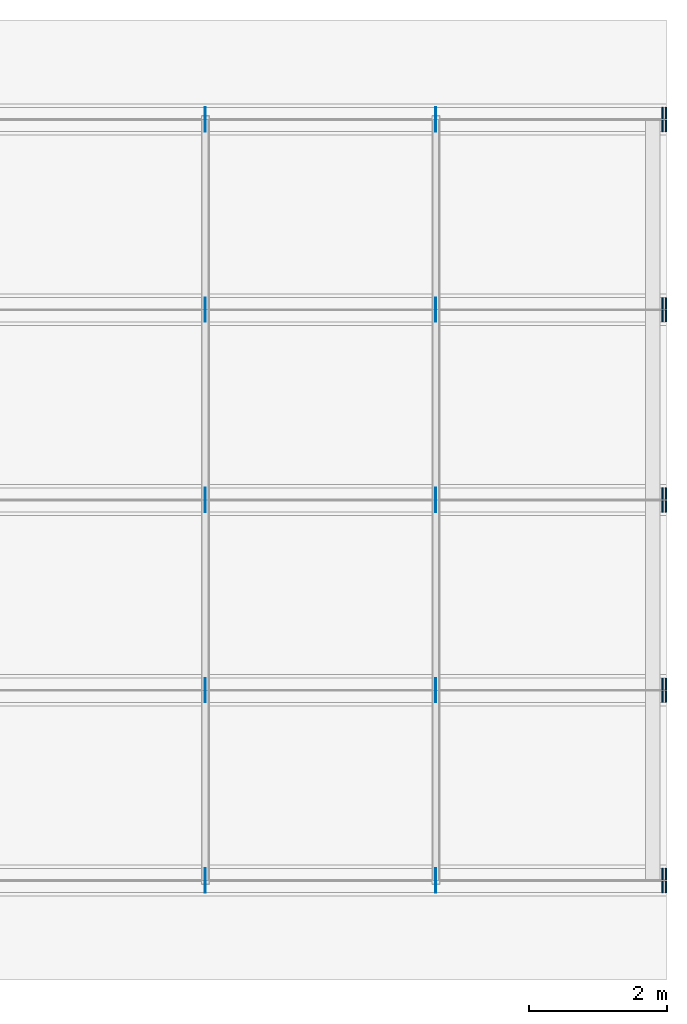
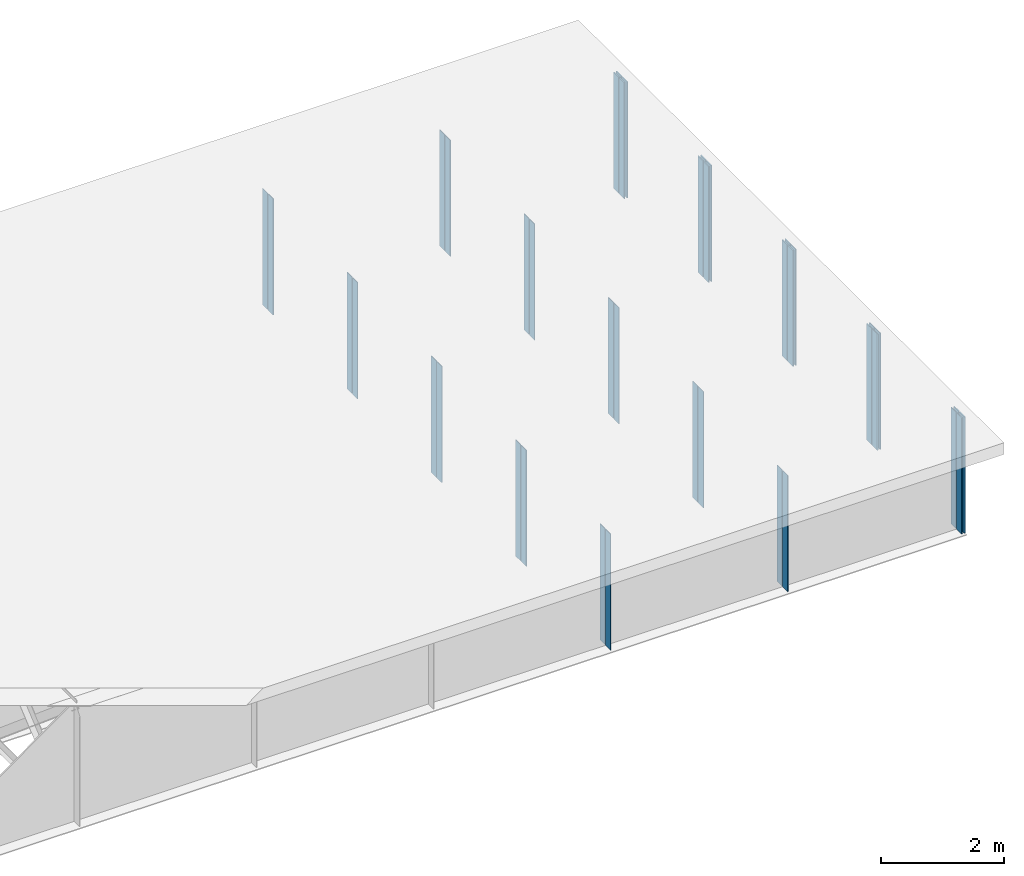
# One storey, part 19 of 19: 40 plates.
"""IFC4 building model written with IfcOpenShell, lengths in metres."""

import ifcopenshell
import ifcopenshell.guid

model = None  # the IFC model being written
_history = None  # IfcOwnerHistory: only IFC2X3 demands one
_inside = {}  # id of a spatial element -> (the spatial element, [elements in it])
_under = {}  # id of a project, library or spatial element -> (it, [spatial elements below it])
_declared = {}  # id of a project -> (the project, [libraries it declares])
_typed = {}  # id of a type object -> (the type object, [elements of that type])
_made_of = {}  # id of a material, layer set ... -> (it, [elements and type objects made of it])


def new_model(schema):
    """Start an empty IFC model of exactly this schema.

    Asked for "IFC4X3", IfcOpenShell would pick the latest addendum, in which some entities
    have other attributes; the version numbers below select the first issue.
    IFC2X3 requires an IfcOwnerHistory on every rooted entity: one is made here for all.
    """
    global model, _history
    if schema == "IFC4X3":
        model = ifcopenshell.file(schema_version=(4, 3, 0, 0))
    else:
        model = ifcopenshell.file(schema=schema)
    _inside.clear()
    _under.clear()
    _declared.clear()
    _typed.clear()
    _made_of.clear()
    _history = None
    if model.schema == "IFC2X3":
        org = make("IfcOrganization", Name="unknown")
        user = make(
            "IfcPersonAndOrganization",
            ThePerson=make("IfcPerson", FamilyName="unknown"),
            TheOrganization=org,
        )
        app = make(
            "IfcApplication",
            ApplicationDeveloper=org,
            Version="unknown",
            ApplicationFullName="unknown",
            ApplicationIdentifier="unknown",
        )
        _history = make(
            "IfcOwnerHistory",
            OwningUser=user,
            OwningApplication=app,
            ChangeAction="ADDED",
            CreationDate=0,
        )
    return model


def make(cls, **values):
    """One entity of the class cls with the attributes given. An attribute that is None is left unset."""
    return model.create_entity(
        cls, **{name: value for name, value in values.items() if value is not None}
    )


def rooted(cls, **values):
    """An entity with a GlobalId (a new one), such as an element, a storey or a relation."""
    return make(cls, GlobalId=ifcopenshell.guid.new(), OwnerHistory=_history, **values)


def si_unit(unit_type, name, prefix=None):
    """IfcSIUnit, for example si_unit("LENGTHUNIT", "METRE", prefix="MILLI")."""
    return make("IfcSIUnit", UnitType=unit_type, Prefix=prefix, Name=name)


def assignment(units):
    """IfcUnitAssignment: the units of a project."""
    return None if units is None else make("IfcUnitAssignment", Units=units)


def point(xyz):
    """IfcCartesianPoint."""
    return None if xyz is None else make("IfcCartesianPoint", Coordinates=xyz)


def direction(xyz):
    """IfcDirection."""
    return None if xyz is None else make("IfcDirection", DirectionRatios=xyz)


def frame(location, z_axis=None, x_axis=None):
    """IfcAxis2Placement3D, a coordinate frame: its origin and axes. An axis left out is left unset."""
    return make(
        "IfcAxis2Placement3D",
        Location=point(location),
        Axis=direction(z_axis),
        RefDirection=direction(x_axis),
    )


def frame_2d(location, x_axis=None):
    """IfcAxis2Placement2D, a coordinate frame in the plane: its origin and x axis."""
    return make(
        "IfcAxis2Placement2D", Location=point(location), RefDirection=direction(x_axis)
    )


def origin():
    """The frame at (0, 0, 0) with its axes left unset."""
    return frame((0.0, 0.0, 0.0))


def origin_with_axes():
    """The frame at (0, 0, 0) with the z axis (0, 0, 1) and the x axis (1, 0, 0) written out."""
    return frame((0.0, 0.0, 0.0), z_axis=(0.0, 0.0, 1.0), x_axis=(1.0, 0.0, 0.0))


def origin_2d_with_axis():
    """The frame at (0, 0) in the plane with the x axis (1, 0) written out."""
    return frame_2d((0.0, 0.0), x_axis=(1.0, 0.0))


def place(relative_to, where):
    """IfcLocalPlacement: puts the frame where relative to a parent placement (None: the world)."""
    return make(
        "IfcLocalPlacement", PlacementRelTo=relative_to, RelativePlacement=where
    )


def context(
    kind, dimensions, precision=None, world=None, true_north=None, identifier=None
):
    """IfcGeometricRepresentationContext, for example the 3D "Model" context."""
    return make(
        "IfcGeometricRepresentationContext",
        ContextIdentifier=identifier,
        ContextType=kind,
        CoordinateSpaceDimension=dimensions,
        Precision=precision,
        WorldCoordinateSystem=world,
        TrueNorth=true_north,
    )


def subcontext(parent, identifier, kind, view, scale=None):
    """IfcGeometricRepresentationSubContext, for example "Body" below "Model"."""
    return make(
        "IfcGeometricRepresentationSubContext",
        ContextIdentifier=identifier,
        ContextType=kind,
        ParentContext=parent,
        TargetScale=scale,
        TargetView=view,
    )


def project(units=None, contexts=None):
    """IfcProject with its units and contexts."""
    return rooted(
        "IfcProject",
        Name="project",
        RepresentationContexts=contexts,
        UnitsInContext=assignment(units),
    )


def spatial(cls, under=None, at=None, **own):
    """A site, building, storey or space (cls), placed at a placement, below another one or the project."""
    s = rooted(cls, ObjectPlacement=at, **own)
    if under is not None:
        _under.setdefault(under.id(), (under, []))[1].append(s)
    return s


def profile(cls, at=None, kind="AREA", **sizes):
    """A parametric profile (cls). Its sizes go by their IFC names, for example OverallWidth=200.0."""
    return make(cls, ProfileType=kind, Position=at, **sizes)


def rectangle(**sizes):
    """IfcRectangleProfileDef."""
    return profile("IfcRectangleProfileDef", **sizes)


def extrude(swept, where, along, depth):
    """IfcExtrudedAreaSolid: the profile swept, set in the frame where, extruded along a direction by depth."""
    return make(
        "IfcExtrudedAreaSolid",
        SweptArea=swept,
        Position=where,
        ExtrudedDirection=direction(along),
        Depth=depth,
    )


def shape(context_of_items, identifier, shape_type, items):
    """IfcShapeRepresentation: the items that make up one representation, for example the "Body"."""
    return make(
        "IfcShapeRepresentation",
        ContextOfItems=context_of_items,
        RepresentationIdentifier=identifier,
        RepresentationType=shape_type,
        Items=items,
    )


def made_of(thing, what):
    """Note that an element or type object is made of a material, layer set ...; save() writes the relation."""
    if what is not None:
        _made_of.setdefault(what.id(), (what, []))[1].append(thing)
    return thing


def element(
    cls,
    number,
    at=None,
    inside=None,
    cuts=None,
    type_object=None,
    material=None,
    context=None,
    identifier="Body",
    shape_type=None,
    held_by="IfcProductDefinitionShape",
    body=None,
    shapes=None,
    **own,
):
    """One element of the class cls, such as IfcWall. Its Tag is "e" and its number.

    at: its placement. inside: the storey or other place that contains it. cuts: it is an
    opening in that element (IfcRelVoidsElement). A single representation is given by context,
    identifier, shape_type and body (its items); several are given by shapes. held_by: the class
    of the entity that holds the representations. save() writes the other relations.
    """
    e = rooted(cls, Tag="e%d" % number, ObjectPlacement=at, **own)
    if body is not None:
        shapes = [shape(context, identifier, shape_type, body)]
    if shapes is not None:
        e.Representation = make(held_by, Representations=shapes)
    if inside is not None:
        _inside.setdefault(inside.id(), (inside, []))[1].append(e)
    if cuts is not None:
        rooted(
            "IfcRelVoidsElement", RelatingBuildingElement=cuts, RelatedOpeningElement=e
        )
    if type_object is not None:
        _typed.setdefault(type_object.id(), (type_object, []))[1].append(e)
    return made_of(e, material)


def aggregate(whole, parts):
    """IfcRelAggregates: a whole, such as a stair, and the parts it consists of."""
    return rooted("IfcRelAggregates", RelatingObject=whole, RelatedObjects=parts)


def save(model, path):
    """Write the relations noted so far, then the file.

    IfcRelAggregates (storeys below a building ...), IfcRelContainedInSpatialStructure (elements
    in a storey), IfcRelDefinesByType, IfcRelAssociatesMaterial and IfcRelDeclares: one each for
    every whole, place, type object, material and project.
    """
    for whole, parts in _under.values():
        aggregate(whole, parts)
    for where, things in _inside.values():
        rooted(
            "IfcRelContainedInSpatialStructure",
            RelatedElements=things,
            RelatingStructure=where,
        )
    for kind, things in _typed.values():
        rooted("IfcRelDefinesByType", RelatedObjects=things, RelatingType=kind)
    for what, things in _made_of.values():
        rooted("IfcRelAssociatesMaterial", RelatedObjects=things, RelatingMaterial=what)
    for by, libraries in _declared.values():
        rooted("IfcRelDeclares", RelatingContext=by, RelatedDefinitions=libraries)
    model.write(path)


model = new_model("IFC4")

# Units and contexts
model_context = context("Model", 3, precision=1e-05, world=origin())
body_context = subcontext(model_context, "Body", "Model", "MODEL_VIEW")
ifc_project = project(units=[si_unit("LENGTHUNIT", "METRE"), si_unit("AREAUNIT", "SQUARE_METRE"), si_unit("VOLUMEUNIT", "CUBIC_METRE"), si_unit("PLANEANGLEUNIT", "RADIAN")], contexts=[model_context])

# Site, building, storey
site_placement = place(None, origin_with_axes())
site = spatial("IfcSite", under=ifc_project, at=site_placement, Name="Default Site")
building_placement = place(site_placement, origin_with_axes())
building = spatial("IfcBuilding", under=site, at=building_placement, Name="Bridge Structure")
storey_placement = place(building_placement, origin_with_axes())
storey = spatial("IfcBuildingStorey", under=building, at=storey_placement, Name="Superstructure")

# Plates
for number, where, z_axis, x_axis, name in (
    (1, (33.33, -5.4085, -1.157), (0.0, 0.0, 1.0), (1.0, 0.0, 0.0), "Intermediate Stiffener 1"),
    (2, (33.33, -5.5915, -1.157), (0.0, 0.0, 1.0), (1.0, 0.0, 0.0), "Intermediate Stiffener 1"),
    (3, (36.663000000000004, -5.4085, -1.157), (0.0, 0.0, 1.0), (1.0, 0.0, 0.0), "Intermediate Stiffener 1"),
    (4, (36.663000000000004, -5.5915, -1.157), (0.0, 0.0, 1.0), (1.0, 0.0, 0.0), "Intermediate Stiffener 1"),
):
    element("IfcPlate", number, at=place(storey_placement, frame(where, z_axis=z_axis, x_axis=x_axis)), inside=storey, Name=name, context=body_context, shape_type="SweptSolid", body=[
        extrude(rectangle(XDim=0.012, YDim=0.167, at=origin_2d_with_axis()), origin_with_axes(), (0.0, 0.0, 1.0), 2.314),
    ])
for number, where, z_axis, x_axis, name in (
    (5, (39.99, -5.4085, -1.157), (0.0, 0.0, 1.0), (1.0, 0.0, 0.0), "End Stiffener 1"),
    (6, (39.99, -5.5915, -1.157), (0.0, 0.0, 1.0), (1.0, 0.0, 0.0), "End Stiffener 1"),
    (7, (39.94, -5.4085, -1.157), (0.0, 0.0, 1.0), (1.0, 0.0, 0.0), "End Stiffener 1"),
    (8, (39.94, -5.5915, -1.157), (0.0, 0.0, 1.0), (1.0, 0.0, 0.0), "End Stiffener 1"),
):
    element("IfcPlate", number, at=place(storey_placement, frame(where, z_axis=z_axis, x_axis=x_axis)), inside=storey, Name=name, context=body_context, shape_type="SweptSolid", body=[
        extrude(rectangle(XDim=0.02, YDim=0.167, at=origin_2d_with_axis()), origin_with_axes(), (0.0, 0.0, 1.0), 2.314),
    ])
for number, where, z_axis, x_axis, name in (
    (9, (33.33, -2.6585, -1.157), (0.0, 0.0, 1.0), (1.0, 0.0, 0.0), "Intermediate Stiffener 2"),
    (10, (33.33, -2.8415, -1.157), (0.0, 0.0, 1.0), (1.0, 0.0, 0.0), "Intermediate Stiffener 2"),
    (11, (36.663000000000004, -2.6585, -1.157), (0.0, 0.0, 1.0), (1.0, 0.0, 0.0), "Intermediate Stiffener 2"),
    (12, (36.663000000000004, -2.8415, -1.157), (0.0, 0.0, 1.0), (1.0, 0.0, 0.0), "Intermediate Stiffener 2"),
):
    element("IfcPlate", number, at=place(storey_placement, frame(where, z_axis=z_axis, x_axis=x_axis)), inside=storey, Name=name, context=body_context, shape_type="SweptSolid", body=[
        extrude(rectangle(XDim=0.012, YDim=0.167, at=origin_2d_with_axis()), origin_with_axes(), (0.0, 0.0, 1.0), 2.314),
    ])
for number, where, z_axis, x_axis, name in (
    (13, (39.99, -2.6585, -1.157), (0.0, 0.0, 1.0), (1.0, 0.0, 0.0), "End Stiffener 2"),
    (14, (39.99, -2.8415, -1.157), (0.0, 0.0, 1.0), (1.0, 0.0, 0.0), "End Stiffener 2"),
    (15, (39.94, -2.6585, -1.157), (0.0, 0.0, 1.0), (1.0, 0.0, 0.0), "End Stiffener 2"),
    (16, (39.94, -2.8415, -1.157), (0.0, 0.0, 1.0), (1.0, 0.0, 0.0), "End Stiffener 2"),
):
    element("IfcPlate", number, at=place(storey_placement, frame(where, z_axis=z_axis, x_axis=x_axis)), inside=storey, Name=name, context=body_context, shape_type="SweptSolid", body=[
        extrude(rectangle(XDim=0.02, YDim=0.167, at=origin_2d_with_axis()), origin_with_axes(), (0.0, 0.0, 1.0), 2.314),
    ])
for number, where, z_axis, x_axis, name in (
    (17, (33.33, 0.0915, -1.157), (0.0, 0.0, 1.0), (1.0, 0.0, 0.0), "Intermediate Stiffener 3"),
    (18, (33.33, -0.0915, -1.157), (0.0, 0.0, 1.0), (1.0, 0.0, 0.0), "Intermediate Stiffener 3"),
    (19, (36.663000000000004, 0.0915, -1.157), (0.0, 0.0, 1.0), (1.0, 0.0, 0.0), "Intermediate Stiffener 3"),
    (20, (36.663000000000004, -0.0915, -1.157), (0.0, 0.0, 1.0), (1.0, 0.0, 0.0), "Intermediate Stiffener 3"),
):
    element("IfcPlate", number, at=place(storey_placement, frame(where, z_axis=z_axis, x_axis=x_axis)), inside=storey, Name=name, context=body_context, shape_type="SweptSolid", body=[
        extrude(rectangle(XDim=0.012, YDim=0.167, at=origin_2d_with_axis()), origin_with_axes(), (0.0, 0.0, 1.0), 2.314),
    ])
for number, where, z_axis, x_axis, name in (
    (21, (39.99, 0.0915, -1.157), (0.0, 0.0, 1.0), (1.0, 0.0, 0.0), "End Stiffener 3"),
    (22, (39.99, -0.0915, -1.157), (0.0, 0.0, 1.0), (1.0, 0.0, 0.0), "End Stiffener 3"),
    (23, (39.94, 0.0915, -1.157), (0.0, 0.0, 1.0), (1.0, 0.0, 0.0), "End Stiffener 3"),
    (24, (39.94, -0.0915, -1.157), (0.0, 0.0, 1.0), (1.0, 0.0, 0.0), "End Stiffener 3"),
):
    element("IfcPlate", number, at=place(storey_placement, frame(where, z_axis=z_axis, x_axis=x_axis)), inside=storey, Name=name, context=body_context, shape_type="SweptSolid", body=[
        extrude(rectangle(XDim=0.02, YDim=0.167, at=origin_2d_with_axis()), origin_with_axes(), (0.0, 0.0, 1.0), 2.314),
    ])
for number, where, z_axis, x_axis, name in (
    (25, (33.33, 2.8415, -1.157), (0.0, 0.0, 1.0), (1.0, 0.0, 0.0), "Intermediate Stiffener 4"),
    (26, (33.33, 2.6585, -1.157), (0.0, 0.0, 1.0), (1.0, 0.0, 0.0), "Intermediate Stiffener 4"),
    (27, (36.663000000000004, 2.8415, -1.157), (0.0, 0.0, 1.0), (1.0, 0.0, 0.0), "Intermediate Stiffener 4"),
    (28, (36.663000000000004, 2.6585, -1.157), (0.0, 0.0, 1.0), (1.0, 0.0, 0.0), "Intermediate Stiffener 4"),
):
    element("IfcPlate", number, at=place(storey_placement, frame(where, z_axis=z_axis, x_axis=x_axis)), inside=storey, Name=name, context=body_context, shape_type="SweptSolid", body=[
        extrude(rectangle(XDim=0.012, YDim=0.167, at=origin_2d_with_axis()), origin_with_axes(), (0.0, 0.0, 1.0), 2.314),
    ])
for number, where, z_axis, x_axis, name in (
    (29, (39.99, 2.8415, -1.157), (0.0, 0.0, 1.0), (1.0, 0.0, 0.0), "End Stiffener 4"),
    (30, (39.99, 2.6585, -1.157), (0.0, 0.0, 1.0), (1.0, 0.0, 0.0), "End Stiffener 4"),
    (31, (39.94, 2.8415, -1.157), (0.0, 0.0, 1.0), (1.0, 0.0, 0.0), "End Stiffener 4"),
    (32, (39.94, 2.6585, -1.157), (0.0, 0.0, 1.0), (1.0, 0.0, 0.0), "End Stiffener 4"),
):
    element("IfcPlate", number, at=place(storey_placement, frame(where, z_axis=z_axis, x_axis=x_axis)), inside=storey, Name=name, context=body_context, shape_type="SweptSolid", body=[
        extrude(rectangle(XDim=0.02, YDim=0.167, at=origin_2d_with_axis()), origin_with_axes(), (0.0, 0.0, 1.0), 2.314),
    ])
for number, where, z_axis, x_axis, name in (
    (33, (33.33, 5.5915, -1.157), (0.0, 0.0, 1.0), (1.0, 0.0, 0.0), "Intermediate Stiffener 5"),
    (34, (33.33, 5.4085, -1.157), (0.0, 0.0, 1.0), (1.0, 0.0, 0.0), "Intermediate Stiffener 5"),
    (35, (36.663000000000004, 5.5915, -1.157), (0.0, 0.0, 1.0), (1.0, 0.0, 0.0), "Intermediate Stiffener 5"),
    (36, (36.663000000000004, 5.4085, -1.157), (0.0, 0.0, 1.0), (1.0, 0.0, 0.0), "Intermediate Stiffener 5"),
):
    element("IfcPlate", number, at=place(storey_placement, frame(where, z_axis=z_axis, x_axis=x_axis)), inside=storey, Name=name, context=body_context, shape_type="SweptSolid", body=[
        extrude(rectangle(XDim=0.012, YDim=0.167, at=origin_2d_with_axis()), origin_with_axes(), (0.0, 0.0, 1.0), 2.314),
    ])
for number, where, z_axis, x_axis, name in (
    (37, (39.99, 5.5915, -1.157), (0.0, 0.0, 1.0), (1.0, 0.0, 0.0), "End Stiffener 5"),
    (38, (39.99, 5.4085, -1.157), (0.0, 0.0, 1.0), (1.0, 0.0, 0.0), "End Stiffener 5"),
    (39, (39.94, 5.5915, -1.157), (0.0, 0.0, 1.0), (1.0, 0.0, 0.0), "End Stiffener 5"),
    (40, (39.94, 5.4085, -1.157), (0.0, 0.0, 1.0), (1.0, 0.0, 0.0), "End Stiffener 5"),
):
    element("IfcPlate", number, at=place(storey_placement, frame(where, z_axis=z_axis, x_axis=x_axis)), inside=storey, Name=name, context=body_context, shape_type="SweptSolid", body=[
        extrude(rectangle(XDim=0.02, YDim=0.167, at=origin_2d_with_axis()), origin_with_axes(), (0.0, 0.0, 1.0), 2.314),
    ])

save(model, "model.ifc")
